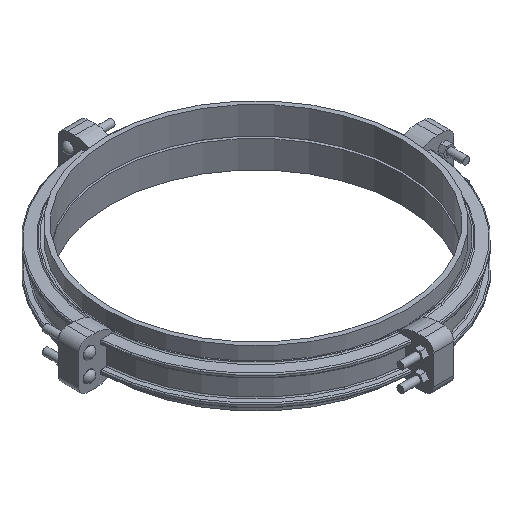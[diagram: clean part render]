
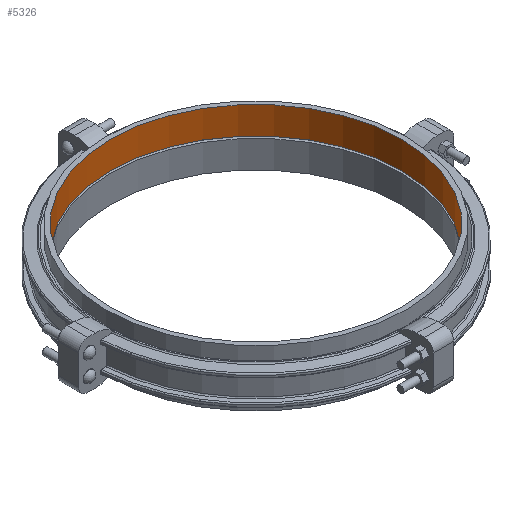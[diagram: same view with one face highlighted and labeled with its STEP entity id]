
A CAD part, isometric view. The second image highlights one B-rep face of the part: STEP entity #5326.
In plain terms, the highlighted cylindrical face has radius 812.8 mm (diameter 1625.6 mm), a full revolution.
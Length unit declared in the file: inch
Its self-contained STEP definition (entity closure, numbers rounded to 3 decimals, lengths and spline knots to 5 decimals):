
#270=CYLINDRICAL_SURFACE('',#5937,32.);
#588=FACE_OUTER_BOUND('',#906,.T.);
#906=EDGE_LOOP('',(#4630,#4631,#4632,#4633,#4634,#4635));
#1291=LINE('',#10065,#1674);
#1674=VECTOR('',#7388,32.);
#1927=CIRCLE('',#5935,32.);
#1928=CIRCLE('',#5936,32.);
#1929=CIRCLE('',#5938,32.);
#1930=CIRCLE('',#5939,32.);
#2431=VERTEX_POINT('',#10059);
#2432=VERTEX_POINT('',#10060);
#2433=VERTEX_POINT('',#10064);
#2434=VERTEX_POINT('',#10066);
#3165=EDGE_CURVE('',#2431,#2432,#1927,.T.);
#3166=EDGE_CURVE('',#2432,#2431,#1928,.T.);
#3167=EDGE_CURVE('',#2432,#2433,#1291,.T.);
#3168=EDGE_CURVE('',#2434,#2433,#1929,.T.);
#3169=EDGE_CURVE('',#2433,#2434,#1930,.T.);
#4630=ORIENTED_EDGE('',*,*,#3165,.T.);
#4631=ORIENTED_EDGE('',*,*,#3167,.T.);
#4632=ORIENTED_EDGE('',*,*,#3168,.F.);
#4633=ORIENTED_EDGE('',*,*,#3169,.F.);
#4634=ORIENTED_EDGE('',*,*,#3167,.F.);
#4635=ORIENTED_EDGE('',*,*,#3166,.T.);
#5326=ADVANCED_FACE('',(#588),#270,.F.);
#5935=AXIS2_PLACEMENT_3D('',#10061,#7382,#7383);
#5936=AXIS2_PLACEMENT_3D('',#10062,#7384,#7385);
#5937=AXIS2_PLACEMENT_3D('',#10063,#7386,#7387);
#5938=AXIS2_PLACEMENT_3D('',#10067,#7389,#7390);
#5939=AXIS2_PLACEMENT_3D('',#10068,#7391,#7392);
#7382=DIRECTION('center_axis',(0.,0.,-1.));
#7383=DIRECTION('ref_axis',(1.,0.,0.));
#7384=DIRECTION('center_axis',(0.,0.,-1.));
#7385=DIRECTION('ref_axis',(1.,0.,0.));
#7386=DIRECTION('center_axis',(0.,0.,-1.));
#7387=DIRECTION('ref_axis',(0.,1.,0.));
#7388=DIRECTION('',(0.,0.,1.));
#7389=DIRECTION('center_axis',(0.,0.,-1.));
#7390=DIRECTION('ref_axis',(1.,0.,0.));
#7391=DIRECTION('center_axis',(0.,0.,-1.));
#7392=DIRECTION('ref_axis',(1.,0.,0.));
#10059=CARTESIAN_POINT('',(0.,32.,0.));
#10060=CARTESIAN_POINT('',(0.,-32.,0.));
#10061=CARTESIAN_POINT('Origin',(0.,0.,0.));
#10062=CARTESIAN_POINT('Origin',(0.,0.,0.));
#10063=CARTESIAN_POINT('Origin',(0.,0.,3.));
#10064=CARTESIAN_POINT('',(0.,-32.,6.));
#10065=CARTESIAN_POINT('',(0.,-32.,3.));
#10066=CARTESIAN_POINT('',(0.,32.,6.));
#10067=CARTESIAN_POINT('Origin',(0.,0.,6.));
#10068=CARTESIAN_POINT('Origin',(0.,0.,6.));
